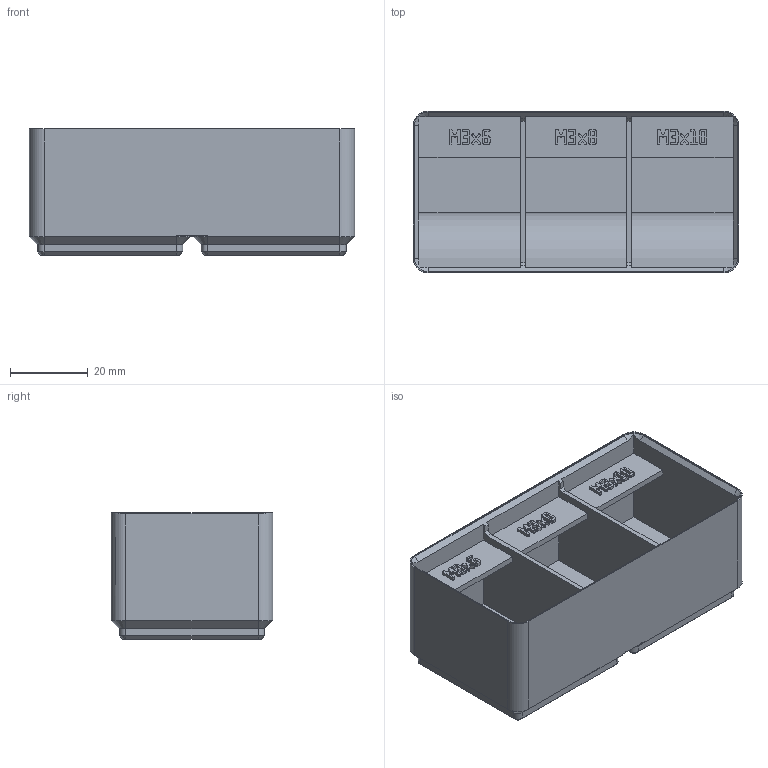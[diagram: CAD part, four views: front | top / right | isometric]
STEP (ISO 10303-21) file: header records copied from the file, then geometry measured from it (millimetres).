
FILE_DESCRIPTION(('Open CASCADE Model'),'2;1');
FILE_NAME('Open CASCADE Shape Model','2026-11-16T13:40:00',('Author'),( 'Open CASCADE'),'Open CASCADE STEP processor 8.0','build123d', 'Unknown');
FILE_SCHEMA(('AUTOMOTIVE_DESIGN { 1 0 10303 214 1 1 1 1 }'));
Products named in the file (1): SOLID
Bounding box: 83.5 x 41.5 x 32.4 mm (x, y, z)
Volume: 46151 mm3; surface area: 23523.7 mm2
Topology: 1 solids, 1 shells, 1499 faces, 4375 edges, 2898 vertices
Faces by surface type: plane 1456, cylinder 23, cone 20
Entity records: 102418 total; most frequent: CARTESIAN_POINT 20728, DIRECTION 13099, LINE 9944, VECTOR 9944, ORIENTED_EDGE 8750, PCURVE 8750, DEFINITIONAL_REPRESENTATION 8750, EDGE_CURVE 4375
